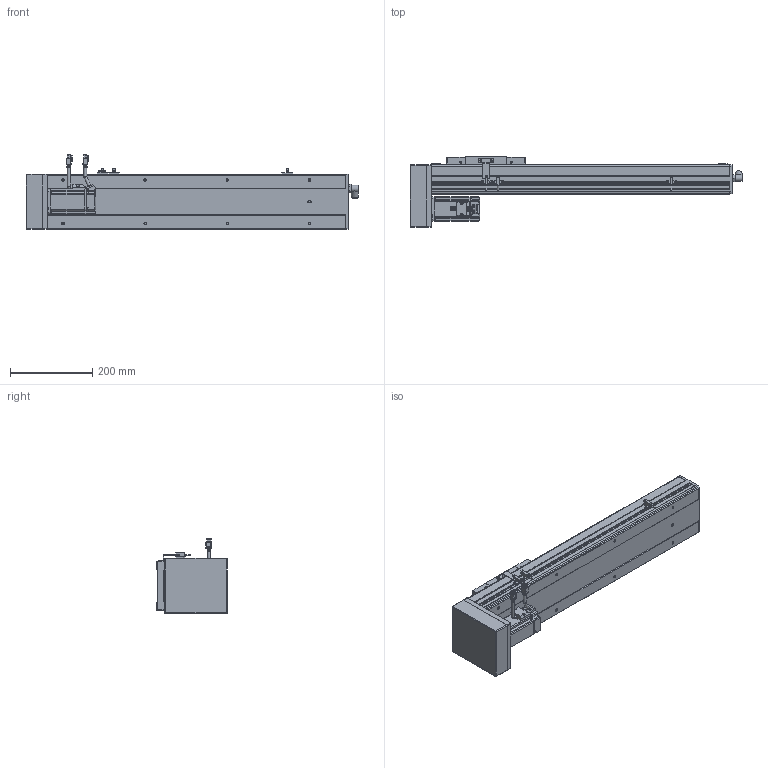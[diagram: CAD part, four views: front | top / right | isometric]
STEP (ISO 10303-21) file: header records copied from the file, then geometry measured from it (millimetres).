
FILE_DESCRIPTION(/* description */ ('STEP AP214'),/* implementation_level */ '2;1');
FILE_NAME(/* name */ 'PSC140-L05-S450-BM-P40-C1-N(0-P)',/* time_stamp */ '2022-06-13T03:20:49+02:00',/* author */ ('License CC BY-ND 4.0'),/* organization */ ('CADENAS'),/* preprocessor_version */ 'ST-DEVELOPER v18.102',/* originating_system */ 'PARTsolutions',/* authorisation */ ' ');
FILE_SCHEMA (('AUTOMOTIVE_DESIGN {1 0 10303 214 3 1 1}'));
Length unit declared in the file: millimetre
Products named in the file (11): PSC140-L05-S450-BM-P40-C1-N(0-P); P40-s2; P40-c2; P40-s1; P40-c1; P40-p1; PSC140-BM-body2; PSC140-sensor; PSC140-BM-SLIDER; PSC140-S450-BM-P40-C1-P_BODY1; PSC140-L05-S450-BM-P40-C1-N(0-P)_dummy
Assembly tree (12 placements, depth 2):
  PSC140-L05-S450-BM-P40-C1-N(0-P)
    P40-s2
    P40-c2
    P40-s1
    P40-c1
    P40-p1
    PSC140-BM-body2
    PSC140-sensor  x3
    PSC140-BM-SLIDER
    PSC140-S450-BM-P40-C1-P_BODY1
    PSC140-L05-S450-BM-P40-C1-N(0-P)_dummy
Bounding box: 808 x 171.5 x 182.48 mm (x, y, z)
Volume: 8774034.1 mm3; surface area: 548247.8 mm2
Topology: 11 solids, 11 shells, 1226 faces, 3175 edges, 2102 vertices
Faces by surface type: plane 858, cylinder 313, cone 36, torus 19
Full cylindrical faces by diameter (mm): 1 x8, 2.6 x10, 2.8 x3, 3.3 x8, 4.5 x12, 4.6 x3, 4.917 x12, 5 x4, 5.5 x8, 6 x11, 7 x10, 9 x2, 10 x1, 11 x1, 12 x1, 13.74 x1, 14 x1, 16.4 x2, 16.5 x1, 36 x1, 50 x2
Entity records: 34032 total; most frequent: CARTESIAN_POINT 5948, DIRECTION 5717, ORIENTED_EDGE 5538, EDGE_CURVE 2769, LINE 2105, VECTOR 2105, VERTEX_POINT 1922, AXIS2_PLACEMENT_3D 1806
